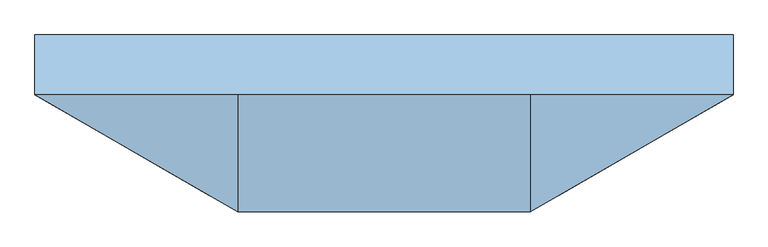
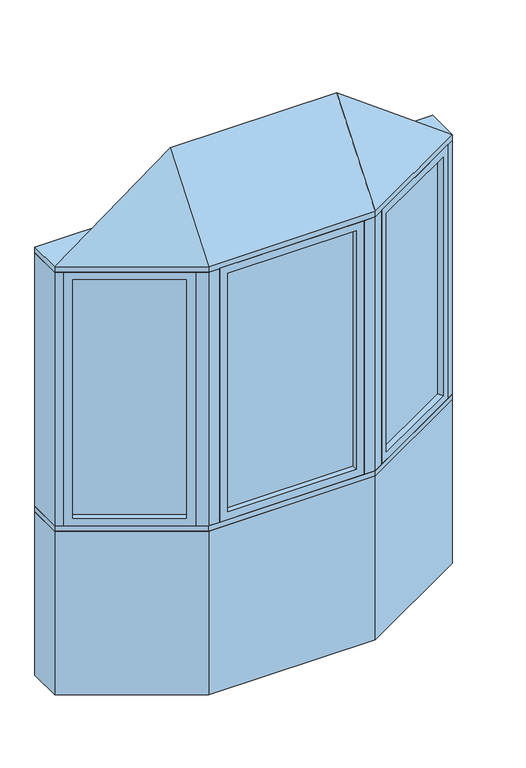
"""IFC4 building model written with IfcOpenShell, lengths in millimetres: window geometry, Pollard_Windows_Tudor Casement Bows and Bays : AML-BAY 30 AFR0512-08-500."""

from ifc_helpers import new_model, si_unit, frame, origin, origin_with_axes, place, context, project, spatial, polyline, outline, extrude, faceted_brep, source, transform, mapped, element, save


def window_06a860e5(model_context):
    return source(origin(), model_context, "Body", "SolidModel", [
        extrude(outline(polyline([(826.612102, -82.0482469), (423.7320119, -314.6511754), (421.1920119, -310.2517664), (824.072102, -77.6488379), (826.612102, -82.0482469)])), frame((0.0, 0.0, 823.1628), z_axis=(0.0, 0.0, 1.0), x_axis=(1.0, 0.0, 0.0)), (0.0, 0.0, 1.0), 1153.6704),
        faceted_brep([(815.6135794, -88.3982469, 835.8628), (828.3135794, -110.3952922, 835.8628), (828.3135794, -110.3952922, 1964.1332), (815.6135794, -88.3982469, 1964.1332), (824.072102, -77.6488379, 823.1628), (826.612102, -82.0482469, 823.1628), (826.612102, -82.0482469, 1976.8332), (824.072102, -77.6488379, 1976.8332), (800.3735794, -62.0017926, 835.8628), (813.0735794, -83.9988379, 835.8628), (813.0735794, -83.9988379, 1964.1332), (800.3735794, -62.0017926, 1964.1332), (859.3734073, -92.4628922, 799.998), (831.4334073, -44.0693926, 799.998), (831.4334073, -44.0693926, 1999.998), (859.3734073, -92.4628922, 1999.998), (447.4305346, -330.2982207, 1964.1332), (434.7305346, -308.3011754, 1964.1332), (423.7320119, -314.6511754, 1976.8332), (421.1920119, -310.2517664, 1976.8332), (432.1905346, -303.9017664, 1964.1332), (419.4905346, -281.9047211, 1964.1332), (388.4307067, -299.8371211, 1999.998), (416.3707067, -348.2306207, 1999.998), (447.4305346, -330.2982207, 835.8628), (434.7305346, -308.3011754, 835.8628), (423.7320119, -314.6511754, 823.1628), (421.1920119, -310.2517664, 823.1628), (432.1905346, -303.9017664, 835.8628), (419.4905346, -281.9047211, 835.8628), (388.4307067, -299.8371211, 799.998), (416.3707067, -348.2306207, 799.998)], [[[0, 1, 2, 3]], [[4, 5, 6, 7]], [[8, 9, 10, 11]], [[12, 13, 14, 15]], [[3, 2, 16, 17]], [[7, 6, 18, 19]], [[11, 10, 20, 21]], [[15, 14, 22, 23]], [[17, 16, 24, 25]], [[19, 18, 26, 27]], [[21, 20, 28, 29]], [[23, 22, 30, 31]], [[25, 24, 1, 0]], [[5, 26, 18, 6], [3, 17, 25, 0]], [[27, 26, 5, 4]], [[7, 19, 27, 4], [9, 28, 20, 10]], [[29, 28, 9, 8]], [[13, 30, 22, 14], [11, 21, 29, 8]], [[31, 30, 13, 12]], [[15, 23, 31, 12], [1, 24, 16, 2]]]),
        extrude(outline(polyline([(-423.7320119, -314.6511754), (-826.612102, -82.0482469), (-824.072102, -77.6488379), (-421.1920119, -310.2517664), (-423.7320119, -314.6511754)])), frame((0.0, 0.0, 823.1628), z_axis=(0.0, 0.0, 1.0), x_axis=(1.0, 0.0, 0.0)), (0.0, 0.0, 1.0), 1153.6704),
        faceted_brep([(-432.1905346, -303.9017664, 1964.1332), (-419.4905346, -281.9047211, 1964.1332), (-419.4905346, -281.9047211, 835.8628), (-432.1905346, -303.9017664, 835.8628), (-423.7320119, -314.6511754, 1976.8332), (-421.1920119, -310.2517664, 1976.8332), (-421.1920119, -310.2517664, 823.1628), (-423.7320119, -314.6511754, 823.1628), (-447.4305346, -330.2982207, 1964.1332), (-434.7305346, -308.3011754, 1964.1332), (-434.7305346, -308.3011754, 835.8628), (-447.4305346, -330.2982207, 835.8628), (-388.4307067, -299.8371211, 1999.998), (-416.3707067, -348.2306207, 1999.998), (-416.3707067, -348.2306207, 799.998), (-388.4307067, -299.8371211, 799.998), (-800.3735794, -62.0017926, 835.8628), (-813.0735794, -83.9988379, 835.8628), (-824.072102, -77.6488379, 823.1628), (-826.612102, -82.0482469, 823.1628), (-815.6135794, -88.3982469, 835.8628), (-828.3135794, -110.3952922, 835.8628), (-859.3734073, -92.4628922, 799.998), (-831.4334073, -44.0693926, 799.998), (-800.3735794, -62.0017926, 1964.1332), (-813.0735794, -83.9988379, 1964.1332), (-824.072102, -77.6488379, 1976.8332), (-826.612102, -82.0482469, 1976.8332), (-815.6135794, -88.3982469, 1964.1332), (-828.3135794, -110.3952922, 1964.1332), (-859.3734073, -92.4628922, 1999.998), (-831.4334073, -44.0693926, 1999.998)], [[[0, 1, 2, 3]], [[4, 5, 6, 7]], [[8, 9, 10, 11]], [[12, 13, 14, 15]], [[3, 2, 16, 17]], [[7, 6, 18, 19]], [[11, 10, 20, 21]], [[15, 14, 22, 23]], [[17, 16, 24, 25]], [[19, 18, 26, 27]], [[21, 20, 28, 29]], [[23, 22, 30, 31]], [[15, 23, 31, 12], [1, 24, 16, 2]], [[25, 24, 1, 0]], [[5, 26, 18, 6], [3, 17, 25, 0]], [[27, 26, 5, 4]], [[7, 19, 27, 4], [9, 28, 20, 10]], [[29, 28, 9, 8]], [[13, 30, 22, 14], [11, 21, 29, 8]], [[31, 30, 13, 12]]]),
        extrude(outline(polyline([(299.9046365, -347.8306207), (-299.9046365, -347.8306207), (-299.9046365, -342.7506207), (299.9046365, -342.7506207), (299.9046365, -347.8306207)])), frame((0.0, 0.0, 823.1628), z_axis=(0.0, 0.0, 1.0), x_axis=(1.0, 0.0, 0.0)), (0.0, 0.0, 1.0), 1153.6704),
        faceted_brep([(287.2046365, -347.8306207, 835.8628), (287.2046365, -373.2306207, 835.8628), (287.2046365, -373.2306207, 1964.1332), (287.2046365, -347.8306207, 1964.1332), (299.9046365, -342.7506207, 823.1628), (299.9046365, -347.8306207, 823.1628), (299.9046365, -347.8306207, 1976.8332), (299.9046365, -342.7506207, 1976.8332), (287.2046365, -317.3506207, 835.8628), (287.2046365, -342.7506207, 835.8628), (287.2046365, -342.7506207, 1964.1332), (287.2046365, -317.3506207, 1964.1332), (323.0694365, -373.2306207, 799.998), (323.0694365, -317.3506207, 799.998), (323.0694365, -317.3506207, 1999.998), (323.0694365, -373.2306207, 1999.998), (-287.2046365, -373.2306207, 1964.1332), (-287.2046365, -347.8306207, 1964.1332), (-299.9046365, -347.8306207, 1976.8332), (-299.9046365, -342.7506207, 1976.8332), (-287.2046365, -342.7506207, 1964.1332), (-287.2046365, -317.3506207, 1964.1332), (-323.0694365, -317.3506207, 1999.998), (-323.0694365, -373.2306207, 1999.998), (-287.2046365, -373.2306207, 835.8628), (-287.2046365, -347.8306207, 835.8628), (-299.9046365, -347.8306207, 823.1628), (-299.9046365, -342.7506207, 823.1628), (-287.2046365, -342.7506207, 835.8628), (-287.2046365, -317.3506207, 835.8628), (-323.0694365, -317.3506207, 799.998), (-323.0694365, -373.2306207, 799.998)], [[[0, 1, 2, 3]], [[4, 5, 6, 7]], [[8, 9, 10, 11]], [[12, 13, 14, 15]], [[3, 2, 16, 17]], [[7, 6, 18, 19]], [[11, 10, 20, 21]], [[15, 14, 22, 23]], [[17, 16, 24, 25]], [[19, 18, 26, 27]], [[21, 20, 28, 29]], [[23, 22, 30, 31]], [[15, 23, 31, 12], [1, 24, 16, 2]], [[25, 24, 1, 0]], [[5, 26, 18, 6], [3, 17, 25, 0]], [[27, 26, 5, 4]], [[7, 19, 27, 4], [9, 28, 20, 10]], [[29, 28, 9, 8]], [[13, 30, 22, 14], [11, 21, 29, 8]], [[31, 30, 13, 12]]]),
        faceted_brep([(890.0, -74.7806207, 2025.398), (373.0694365, -373.2306207, 2025.398), (-373.0694365, -373.2306207, 2025.398), (-890.0, -74.7806207, 2025.398), (-373.0694365, -74.7806207, 2406.398), (373.0694365, -74.7806207, 2406.398)], [[[0, 1, 2, 3]], [[3, 2, 4]], [[2, 1, 5, 4]], [[1, 0, 5]], [[0, 3, 4, 5]]]),
        extrude(outline(polyline([(-890.0, 77.6193793), (890.0, 77.6193793), (890.0, -74.7806207), (373.0694365, -373.2306207), (-373.0694365, -373.2306207), (-890.0, -74.7806207), (-890.0, 77.6193793)])), frame((0.0, 0.0, 1999.998), z_axis=(0.0, 0.0, 1.0), x_axis=(1.0, 0.0, 0.0)), (0.0, 0.0, 1.0), 25.4),
        extrude(outline(polyline([(-890.0, -74.7806207), (-890.0, 77.6193793), (-849.1645431, 77.6193793), (-849.1645431, -74.7806207), (-859.3734073, -92.4628922), (-890.0, -74.7806207)])), frame((0.0, 0.0, 799.998), z_axis=(0.0, 0.0, 1.0), x_axis=(1.0, 0.0, 0.0)), (0.0, 0.0, 1.0), 1200.0),
        extrude(outline(polyline([(890.0, 77.6193793), (890.0, -74.7806207), (859.3734073, -92.4628922), (849.1645431, -74.7806207), (849.1645431, 77.6193793), (890.0, 77.6193793)])), frame((0.0, 0.0, 799.998), z_axis=(0.0, 0.0, 1.0), x_axis=(1.0, 0.0, 0.0)), (0.0, 0.0, 1.0), 1200.0),
        extrude(outline(polyline([(373.0694365, -373.2306207), (323.0694365, -373.2306207), (323.0694365, -323.2306207), (359.6719769, -323.2306207), (391.3707067, -304.9293505), (416.3707067, -348.2306207), (373.0694365, -373.2306207)])), frame((0.0, 0.0, 799.998), z_axis=(0.0, 0.0, 1.0), x_axis=(1.0, 0.0, 0.0)), (0.0, 0.0, 1.0), 1200.0),
        extrude(outline(polyline([(-373.0694365, -373.2306207), (-416.3707067, -348.2306207), (-391.3707067, -304.9293505), (-359.6719769, -323.2306207), (-323.0694365, -323.2306207), (-323.0694365, -373.2306207), (-373.0694365, -373.2306207)])), frame((0.0, 0.0, 799.998), z_axis=(0.0, 0.0, 1.0), x_axis=(1.0, 0.0, 0.0)), (0.0, 0.0, 1.0), 1200.0),
        extrude(outline(polyline([(-373.0694365, -373.2306207), (-890.0, -74.7806207), (-890.0, 77.6193793), (-849.1645431, 77.6193793), (-332.2339796, -220.8306207), (332.2339796, -220.8306207), (849.1645431, 77.6193793), (890.0, 77.6193793), (890.0, -74.7806207), (373.0694365, -373.2306207), (-373.0694365, -373.2306207)])), frame((0.0, 0.0, 774.598), z_axis=(0.0, 0.0, 1.0), x_axis=(1.0, 0.0, 0.0)), (0.0, 0.0, 1.0), 25.4),
        extrude(outline(polyline([(-890.0, -74.7806207), (-890.0, 77.6193793), (-849.1645431, 77.6193793), (-332.2339796, -220.8306207), (332.2339796, -220.8306207), (849.1645431, 77.6193793), (890.0, 77.6193793), (890.0, -74.7806207), (373.0694365, -373.2306207), (-373.0694365, -373.2306207), (-890.0, -74.7806207)])), origin_with_axes(), (0.0, 0.0, 1.0), 774.598),
    ])


if __name__ == "__main__":
    model = new_model("IFC4")
    model_context = context("Model", 3, world=origin())
    ifc_project = project(units=[si_unit("LENGTHUNIT", "METRE", prefix="MILLI")], contexts=[model_context])
    site = spatial("IfcSite", under=ifc_project)
    building = spatial("IfcBuilding", under=site)
    placement = place(None, origin())
    window_shape = window_06a860e5(model_context)
    element("IfcWindow", 1, ObjectType="Pollard_Windows_Tudor Casement Bows and Bays : AML-BAY 30 AFR0512-08-500", at=placement, inside=building, context=model_context, shape_type="MappedRepresentation", body=[
        mapped(window_shape, transform((0.0, 0.0, 0.0), x_axis=(1.0, 0.0, 0.0), y_axis=(0.0, 1.0, 0.0), z_axis=(0.0, 0.0, 1.0))),
    ])
    save(model, "model.ifc")
